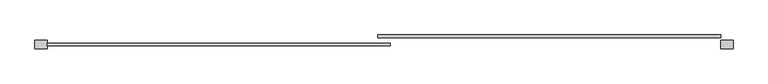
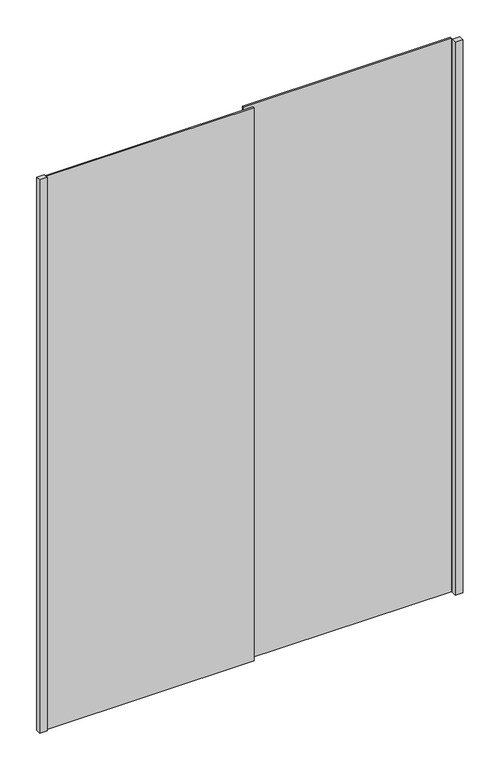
"""IFC4 building model written with IfcOpenShell, lengths in millimetres: furniture geometry, Puerta Closet corre 2 hojas : Puerta corrdiza 2 hojas."""

from ifc_helpers import new_model, si_unit, origin, origin_with_axes, place, context, project, spatial, polyline, outline, extrude, source, transform, mapped, element, save


def furniture_af3adfe5(model_context):
    return source(origin(), model_context, "Body", "SweptSolid", [
        extrude(outline(polyline([(300.0, 80.0), (270.0, 80.0), (270.0, 100.0), (300.0, 100.0), (300.0, 80.0)])), origin_with_axes(), (0.0, 0.0, 1.0), 2320.0),
        extrude(outline(polyline([(270.0, 106.6666667), (-555.0, 106.6666667), (-555.0, 113.3333333), (270.0, 113.3333333), (270.0, 106.6666667)])), origin_with_axes(), (0.0, 0.0, 1.0), 2320.0),
        extrude(outline(polyline([(-525.0, 86.6666667), (-1350.0, 86.6666667), (-1350.0, 93.3333333), (-525.0, 93.3333333), (-525.0, 86.6666667)])), origin_with_axes(), (0.0, 0.0, 1.0), 2320.0),
        extrude(outline(polyline([(-1380.0, 80.0), (-1380.0, 100.0), (-1350.0, 100.0), (-1350.0, 80.0), (-1380.0, 80.0)])), origin_with_axes(), (0.0, 0.0, 1.0), 2320.0),
    ])


if __name__ == "__main__":
    model = new_model("IFC4")
    model_context = context("Model", 3, world=origin())
    ifc_project = project(units=[si_unit("LENGTHUNIT", "METRE", prefix="MILLI")], contexts=[model_context])
    site = spatial("IfcSite", under=ifc_project)
    building = spatial("IfcBuilding", under=site)
    placement = place(None, origin())
    furniture_shape = furniture_af3adfe5(model_context)
    element("IfcFurniture", 1, ObjectType="Puerta Closet corre 2 hojas : Puerta corrdiza 2 hojas", at=placement, inside=building, context=model_context, shape_type="MappedRepresentation", body=[
        mapped(furniture_shape, transform((0.0, 0.0, 0.0), x_axis=(1.0, 0.0, 0.0), y_axis=(0.0, 1.0, 0.0), z_axis=(0.0, 0.0, 1.0))),
    ])
    save(model, "model.ifc")
